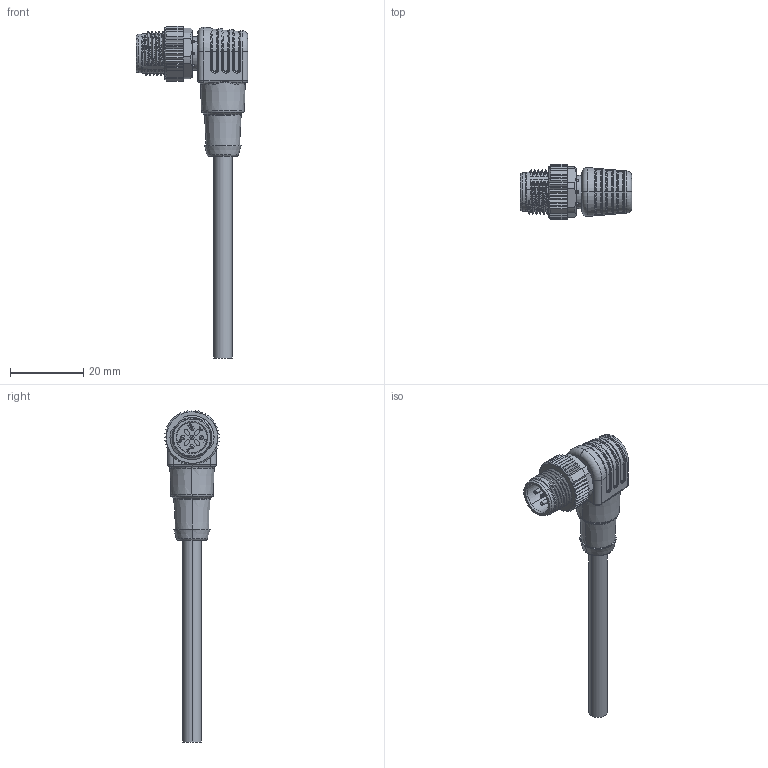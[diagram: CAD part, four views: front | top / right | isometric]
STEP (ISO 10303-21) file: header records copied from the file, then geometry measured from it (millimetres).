
FILE_DESCRIPTION (( 'STEP AP203' ), '1' );
FILE_NAME ('M12 5Õë A Íä¹«30.4.STEP', '2024-12-09T07:38:27', ( 'L' ), ( '' ), 'SwSTEP 2.0', 'SolidWorks 2019', '' );
FILE_SCHEMA (( 'CONFIG_CONTROL_DESIGN' ));
Length unit declared in the file: millimetre
Products named in the file (1): M12 5渀 A 俔鼠30.4
Bounding box: 30.4 x 15 x 90.45 mm (x, y, z)
Volume: 6500.4 mm3; surface area: 4793.4 mm2
Topology: 1 solids, 1 shells, 1155 faces, 3345 edges, 2183 vertices
Faces by surface type: plane 530, cylinder 275, cone 158, bspline 127, torus 65
Entity records: 55850 total; most frequent: CARTESIAN_POINT 27838, ORIENTED_EDGE 6688, DIRECTION 4735, EDGE_CURVE 3344, VERTEX_POINT 2183, AXIS2_PLACEMENT_3D 1650, VECTOR 1435, LINE 1435
